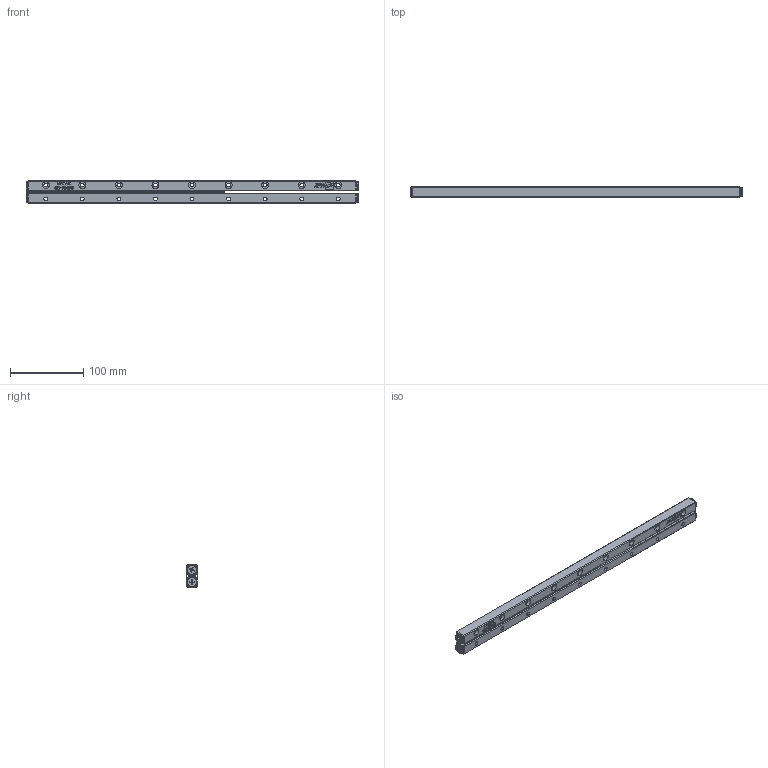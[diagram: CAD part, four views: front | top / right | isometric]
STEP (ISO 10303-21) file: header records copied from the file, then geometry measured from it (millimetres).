
FILE_DESCRIPTION (( 'STEP AP203' ), '1' );
FILE_NAME ('GRV06-450.STEP', '2012-10-17T03:55:29', ( '123' ), ( '' ), 'SwSTEP 2.0', 'SolidWorks 2012', '' );
FILE_SCHEMA (( 'CONFIG_CONTROL_DESIGN' ));
Length unit declared in the file: millimetre
Products named in the file (1): GRV06-450
Bounding box: 454.05 x 15 x 30.93 mm (x, y, z)
Surface area: 66004.3 mm2 (no closed solid volume)
Topology: 0 solids, 40 shells, 341 faces, 1894 edges, 1607 vertices
Faces by surface type: plane 225, cylinder 84, torus 18, cone 10, bspline 4
Entity records: 22100 total; most frequent: CARTESIAN_POINT 7645, DIRECTION 2728, ORIENTED_EDGE 2550, EDGE_CURVE 1892, VERTEX_POINT 1607, VECTOR 1220, LINE 1220, AXIS2_PLACEMENT_3D 754
